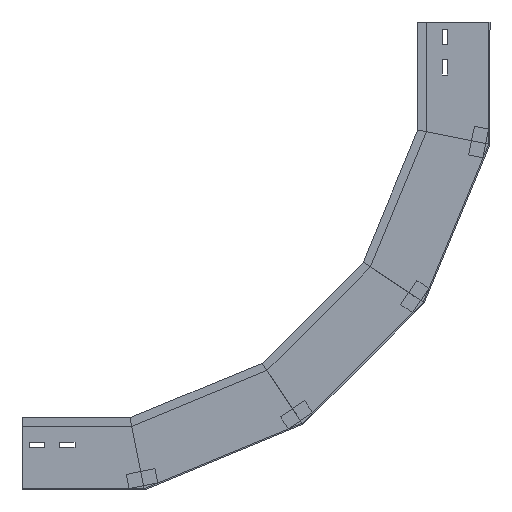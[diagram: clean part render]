
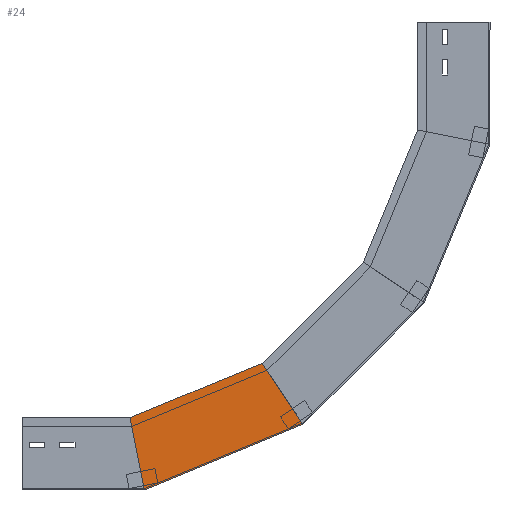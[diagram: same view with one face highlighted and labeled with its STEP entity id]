
A CAD part, left-side view. The second image highlights one B-rep face of the part: STEP entity #24.
In plain terms, the highlighted planar face has unit normal (-1, 0, 0) as drawn and (1, 0, 0) by its records, which use the part's own axes.
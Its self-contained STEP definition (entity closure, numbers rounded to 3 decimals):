
#15 = LINE ( 'NONE', #1370, #1165 ) ;
#24 = ADVANCED_FACE ( 'NONE', ( #1594 ), #1447, .F. ) ;
#30 = DIRECTION ( 'NONE',  ( 0., 0., 1. ) ) ;
#91 = DIRECTION ( 'NONE',  ( 0., 0.383, -0.924 ) ) ;
#120 = CARTESIAN_POINT ( 'NONE',  ( 0., 0., -169.6 ) ) ;
#161 = DIRECTION ( 'NONE',  ( 0., 0.383, -0.924 ) ) ;
#383 = EDGE_CURVE ( 'NONE', #1216, #1051, #15, .T. ) ;
#511 = VERTEX_POINT ( 'NONE', #1418 ) ;
#612 = CARTESIAN_POINT ( 'NONE',  ( 0., 0., -169.6 ) ) ;
#655 = DIRECTION ( 'NONE',  ( 0., -0.981, -0.195 ) ) ;
#669 = EDGE_CURVE ( 'NONE', #511, #1216, #1525, .T. ) ;
#692 = ORIENTED_EDGE ( 'NONE', *, *, #1238, .T. ) ;
#769 = DIRECTION ( 'NONE',  ( -1., 0., 0. ) ) ;
#848 = VERTEX_POINT ( 'NONE', #612 ) ;
#875 = ORIENTED_EDGE ( 'NONE', *, *, #1547, .T. ) ;
#1001 = VECTOR ( 'NONE', #655, 1000. ) ;
#1032 = VECTOR ( 'NONE', #161, 1000. ) ;
#1051 = VERTEX_POINT ( 'NONE', #1764 ) ;
#1090 = DIRECTION ( 'NONE',  ( 0., -0.831, -0.556 ) ) ;
#1137 = EDGE_LOOP ( 'NONE', ( #1169, #692, #875, #1336 ) ) ;
#1165 = VECTOR ( 'NONE', #1090, 1000. ) ;
#1169 = ORIENTED_EDGE ( 'NONE', *, *, #669, .F. ) ;
#1216 = VERTEX_POINT ( 'NONE', #1372 ) ;
#1238 = EDGE_CURVE ( 'NONE', #511, #848, #1685, .T. ) ;
#1336 = ORIENTED_EDGE ( 'NONE', *, *, #383, .F. ) ;
#1370 = CARTESIAN_POINT ( 'NONE',  ( 0., 129.74, -363.769 ) ) ;
#1372 = CARTESIAN_POINT ( 'NONE',  ( 0., 175.893, -332.93 ) ) ;
#1399 = CARTESIAN_POINT ( 'NONE',  ( 0., 32.452, -163.145 ) ) ;
#1418 = CARTESIAN_POINT ( 'NONE',  ( 0., 100., -149.709 ) ) ;
#1447 = PLANE ( 'NONE',  #1883 ) ;
#1462 = VECTOR ( 'NONE', #91, 1000. ) ;
#1498 = CARTESIAN_POINT ( 'NONE',  ( 0., 0., -169.6 ) ) ;
#1525 = LINE ( 'NONE', #1824, #1462 ) ;
#1547 = EDGE_CURVE ( 'NONE', #848, #1051, #1763, .T. ) ;
#1594 = FACE_OUTER_BOUND ( 'NONE', #1137, .T. ) ;
#1685 = LINE ( 'NONE', #1399, #1001 ) ;
#1763 = LINE ( 'NONE', #1498, #1032 ) ;
#1764 = CARTESIAN_POINT ( 'NONE',  ( 0., 91.117, -389.576 ) ) ;
#1824 = CARTESIAN_POINT ( 'NONE',  ( 0., 92.388, -131.332 ) ) ;
#1883 = AXIS2_PLACEMENT_3D ( 'NONE', #120, #769, #30 ) ;
